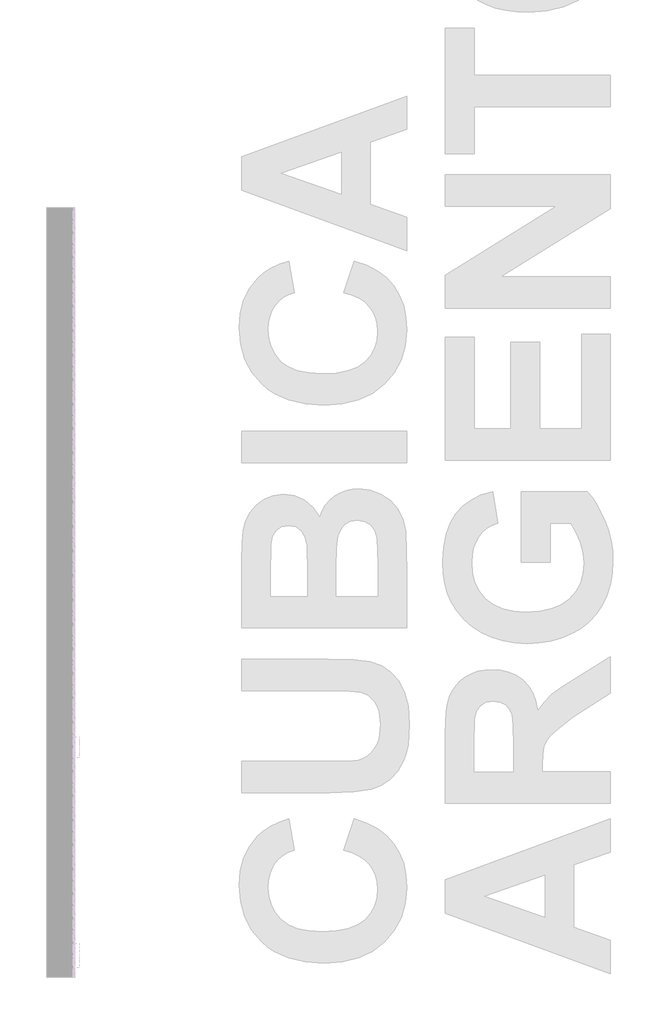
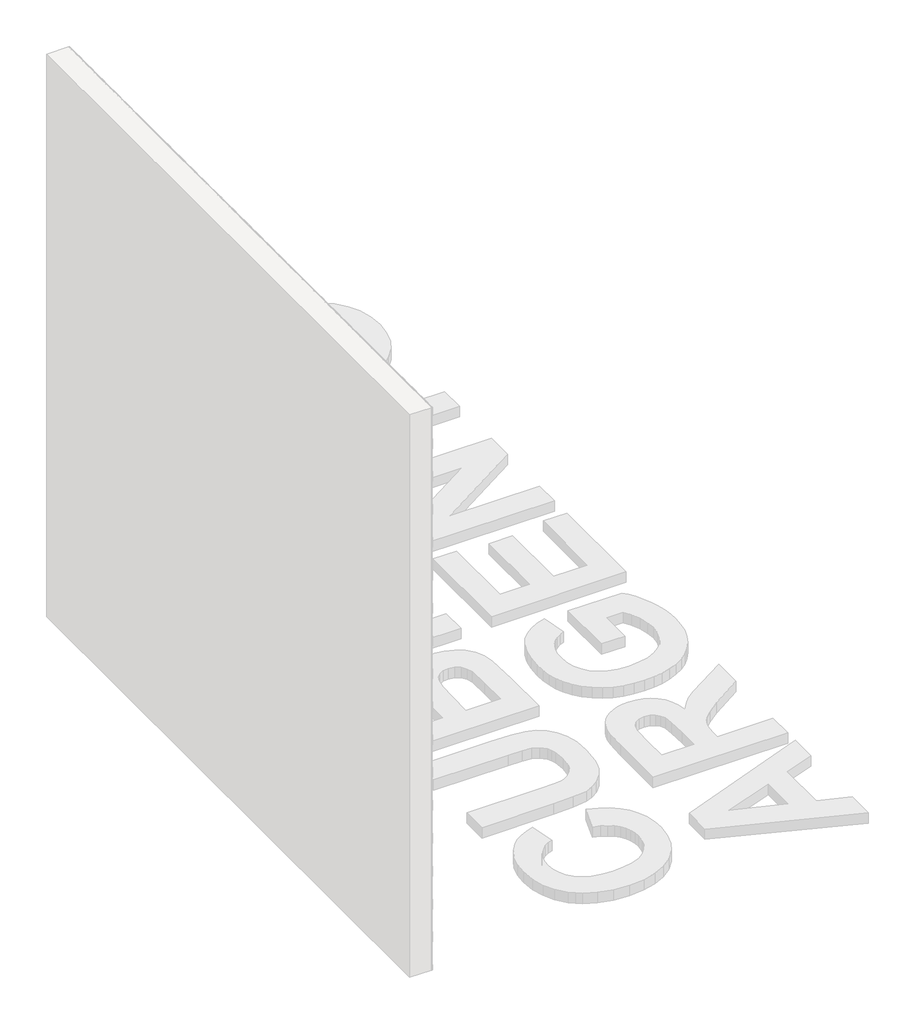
# One storey, part 7 of 121: 145 proxies.
"""IFC4 building model written with IfcOpenShell, lengths in millimetres."""

from ifc_helpers import new_model, si_unit, origin, place, context, project, spatial, transform, mapped, element, save
from components import generic_models_b2b2c5c1, generic_models_9bf73f6f, generic_models_5d175859

model = new_model("IFC4")

# Units and contexts
model_context = context("Model", 3, world=origin())
ifc_project = project(units=[si_unit("LENGTHUNIT", "METRE", prefix="MILLI")], contexts=[model_context])

# Site, building, storey
site = spatial("IfcSite", under=ifc_project)
building = spatial("IfcBuilding", under=site)
storey = spatial("IfcBuildingStorey", under=building, Name="PORTOBELLO - SHOWROOM", Elevation=0.0)

# Proxies
placement = place(None, origin())
generic_models_shape = generic_models_b2b2c5c1(model_context)
element("IfcBuildingElementProxy", 1, Name="PBSHOP - CUBICA ARGENTO 4,8X8,3 : CUBICA ARGENTO - POSIÇÃO 01", ObjectType="PBSHOP - CUBICA ARGENTO 4,8X8,3 : CUBICA ARGENTO - POSIÇÃO 01", at=placement, inside=storey, context=model_context, shape_type="MappedRepresentation", body=[
    mapped(generic_models_shape, transform((150369.5341846, -5949.2559082, 828.7685506), x_axis=(0.0, 1.0, 0.0), y_axis=(0.0, 0.0, 1.0), z_axis=(1.0, 0.0, 0.0))),
])
element("IfcBuildingElementProxy", 2, Name="PBSHOP - CUBICA ARGENTO 4,8X8,3 : CUBICA ARGENTO - POSIÇÃO 01", ObjectType="PBSHOP - CUBICA ARGENTO 4,8X8,3 : CUBICA ARGENTO - POSIÇÃO 01", at=placement, inside=storey, context=model_context, shape_type="MappedRepresentation", body=[
    mapped(generic_models_shape, transform((150369.5341846, -5858.416639, 828.7685506), x_axis=(0.0, 1.0, 0.0), y_axis=(0.0, 0.0, 1.0), z_axis=(1.0, 0.0, 0.0))),
])
element("IfcBuildingElementProxy", 3, Name="PBSHOP - CUBICA ARGENTO 4,8X8,3 : CUBICA ARGENTO - POSIÇÃO 01", ObjectType="PBSHOP - CUBICA ARGENTO 4,8X8,3 : CUBICA ARGENTO - POSIÇÃO 01", at=placement, inside=storey, context=model_context, shape_type="MappedRepresentation", body=[
    mapped(generic_models_shape, transform((150369.5341846, -5767.5773697, 828.7685506), x_axis=(0.0, 1.0, 0.0), y_axis=(0.0, 0.0, 1.0), z_axis=(1.0, 0.0, 0.0))),
])
element("IfcBuildingElementProxy", 4, Name="PBSHOP - CUBICA ARGENTO 4,8X8,3 : CUBICA ARGENTO - POSIÇÃO 01", ObjectType="PBSHOP - CUBICA ARGENTO 4,8X8,3 : CUBICA ARGENTO - POSIÇÃO 01", at=placement, inside=storey, context=model_context, shape_type="MappedRepresentation", body=[
    mapped(generic_models_shape, transform((150369.5341846, -5676.7381005, 828.7685506), x_axis=(0.0, 1.0, 0.0), y_axis=(0.0, 0.0, 1.0), z_axis=(1.0, 0.0, 0.0))),
])
element("IfcBuildingElementProxy", 5, Name="PBSHOP - CUBICA ARGENTO 4,8X8,3 : CUBICA ARGENTO - POSIÇÃO 01", ObjectType="PBSHOP - CUBICA ARGENTO 4,8X8,3 : CUBICA ARGENTO - POSIÇÃO 01", at=placement, inside=storey, context=model_context, shape_type="MappedRepresentation", body=[
    mapped(generic_models_shape, transform((150369.5341846, -5585.8988312, 828.7685506), x_axis=(0.0, 1.0, 0.0), y_axis=(0.0, 0.0, 1.0), z_axis=(1.0, 0.0, 0.0))),
])
element("IfcBuildingElementProxy", 6, Name="PBSHOP - CUBICA ARGENTO 4,8X8,3 : CUBICA ARGENTO - POSIÇÃO 01", ObjectType="PBSHOP - CUBICA ARGENTO 4,8X8,3 : CUBICA ARGENTO - POSIÇÃO 01", at=placement, inside=storey, context=model_context, shape_type="MappedRepresentation", body=[
    mapped(generic_models_shape, transform((150369.5341846, -5495.059562, 828.7685506), x_axis=(0.0, 1.0, 0.0), y_axis=(0.0, 0.0, 1.0), z_axis=(1.0, 0.0, 0.0))),
])
element("IfcBuildingElementProxy", 7, Name="PBSHOP - CUBICA ARGENTO 4,8X8,3 : CUBICA ARGENTO - POSIÇÃO 01", ObjectType="PBSHOP - CUBICA ARGENTO 4,8X8,3 : CUBICA ARGENTO - POSIÇÃO 01", at=placement, inside=storey, context=model_context, shape_type="MappedRepresentation", body=[
    mapped(generic_models_shape, transform((150369.5341846, -5404.2202927, 828.7685506), x_axis=(0.0, 1.0, 0.0), y_axis=(0.0, 0.0, 1.0), z_axis=(1.0, 0.0, 0.0))),
])
element("IfcBuildingElementProxy", 8, Name="PBSHOP - CUBICA ARGENTO 4,8X8,3 : CUBICA ARGENTO - POSIÇÃO 01", ObjectType="PBSHOP - CUBICA ARGENTO 4,8X8,3 : CUBICA ARGENTO - POSIÇÃO 01", at=placement, inside=storey, context=model_context, shape_type="MappedRepresentation", body=[
    mapped(generic_models_shape, transform((150369.5341846, -5313.3810235, 828.7685506), x_axis=(0.0, 1.0, 0.0), y_axis=(0.0, 0.0, 1.0), z_axis=(1.0, 0.0, 0.0))),
])
element("IfcBuildingElementProxy", 9, Name="PBSHOP - CUBICA ARGENTO 4,8X8,3 : CUBICA ARGENTO - POSIÇÃO 01", ObjectType="PBSHOP - CUBICA ARGENTO 4,8X8,3 : CUBICA ARGENTO - POSIÇÃO 01", at=placement, inside=storey, context=model_context, shape_type="MappedRepresentation", body=[
    mapped(generic_models_shape, transform((150369.5341846, -5222.5417543, 828.7685506), x_axis=(0.0, 1.0, 0.0), y_axis=(0.0, 0.0, 1.0), z_axis=(1.0, 0.0, 0.0))),
])
element("IfcBuildingElementProxy", 10, Name="PBSHOP - CUBICA ARGENTO 4,8X8,3 : CUBICA ARGENTO - POSIÇÃO 01", ObjectType="PBSHOP - CUBICA ARGENTO 4,8X8,3 : CUBICA ARGENTO - POSIÇÃO 01", at=placement, inside=storey, context=model_context, shape_type="MappedRepresentation", body=[
    mapped(generic_models_shape, transform((150369.5341846, -5131.702485, 828.7685506), x_axis=(0.0, 1.0, 0.0), y_axis=(0.0, 0.0, 1.0), z_axis=(1.0, 0.0, 0.0))),
])
element("IfcBuildingElementProxy", 11, Name="PBSHOP - CUBICA ARGENTO 4,8X8,3 : CUBICA ARGENTO - POSIÇÃO 01", ObjectType="PBSHOP - CUBICA ARGENTO 4,8X8,3 : CUBICA ARGENTO - POSIÇÃO 01", at=placement, inside=storey, context=model_context, shape_type="MappedRepresentation", body=[
    mapped(generic_models_shape, transform((150369.5341846, -5040.8632158, 828.7685506), x_axis=(0.0, 1.0, 0.0), y_axis=(0.0, 0.0, 1.0), z_axis=(1.0, 0.0, 0.0))),
])
element("IfcBuildingElementProxy", 12, Name="PBSHOP - CUBICA ARGENTO 4,8X8,3 : CUBICA ARGENTO - POSIÇÃO 01", ObjectType="PBSHOP - CUBICA ARGENTO 4,8X8,3 : CUBICA ARGENTO - POSIÇÃO 01", at=placement, inside=storey, context=model_context, shape_type="MappedRepresentation", body=[
    mapped(generic_models_shape, transform((150369.5341846, -5994.6755428, 907.7031889), x_axis=(0.0, 1.0, 0.0), y_axis=(0.0, 0.0, 1.0), z_axis=(1.0, 0.0, 0.0))),
])
element("IfcBuildingElementProxy", 13, Name="PBSHOP - CUBICA ARGENTO 4,8X8,3 : CUBICA ARGENTO - POSIÇÃO 01", ObjectType="PBSHOP - CUBICA ARGENTO 4,8X8,3 : CUBICA ARGENTO - POSIÇÃO 01", at=placement, inside=storey, context=model_context, shape_type="MappedRepresentation", body=[
    mapped(generic_models_shape, transform((150369.5341846, -5903.8362736, 907.7031889), x_axis=(0.0, 1.0, 0.0), y_axis=(0.0, 0.0, 1.0), z_axis=(1.0, 0.0, 0.0))),
])
element("IfcBuildingElementProxy", 14, Name="PBSHOP - CUBICA ARGENTO 4,8X8,3 : CUBICA ARGENTO - POSIÇÃO 01", ObjectType="PBSHOP - CUBICA ARGENTO 4,8X8,3 : CUBICA ARGENTO - POSIÇÃO 01", at=placement, inside=storey, context=model_context, shape_type="MappedRepresentation", body=[
    mapped(generic_models_shape, transform((150369.5341846, -5812.9970043, 907.7031889), x_axis=(0.0, 1.0, 0.0), y_axis=(0.0, 0.0, 1.0), z_axis=(1.0, 0.0, 0.0))),
])
element("IfcBuildingElementProxy", 15, Name="PBSHOP - CUBICA ARGENTO 4,8X8,3 : CUBICA ARGENTO - POSIÇÃO 01", ObjectType="PBSHOP - CUBICA ARGENTO 4,8X8,3 : CUBICA ARGENTO - POSIÇÃO 01", at=placement, inside=storey, context=model_context, shape_type="MappedRepresentation", body=[
    mapped(generic_models_shape, transform((150369.5341846, -5722.1577351, 907.7031889), x_axis=(0.0, 1.0, 0.0), y_axis=(0.0, 0.0, 1.0), z_axis=(1.0, 0.0, 0.0))),
])
element("IfcBuildingElementProxy", 16, Name="PBSHOP - CUBICA ARGENTO 4,8X8,3 : CUBICA ARGENTO - POSIÇÃO 01", ObjectType="PBSHOP - CUBICA ARGENTO 4,8X8,3 : CUBICA ARGENTO - POSIÇÃO 01", at=placement, inside=storey, context=model_context, shape_type="MappedRepresentation", body=[
    mapped(generic_models_shape, transform((150369.5341846, -5631.3184659, 907.7031889), x_axis=(0.0, 1.0, 0.0), y_axis=(0.0, 0.0, 1.0), z_axis=(1.0, 0.0, 0.0))),
])
element("IfcBuildingElementProxy", 17, Name="PBSHOP - CUBICA ARGENTO 4,8X8,3 : CUBICA ARGENTO - POSIÇÃO 01", ObjectType="PBSHOP - CUBICA ARGENTO 4,8X8,3 : CUBICA ARGENTO - POSIÇÃO 01", at=placement, inside=storey, context=model_context, shape_type="MappedRepresentation", body=[
    mapped(generic_models_shape, transform((150369.5341846, -5540.4791966, 907.7031889), x_axis=(0.0, 1.0, 0.0), y_axis=(0.0, 0.0, 1.0), z_axis=(1.0, 0.0, 0.0))),
])
element("IfcBuildingElementProxy", 18, Name="PBSHOP - CUBICA ARGENTO 4,8X8,3 : CUBICA ARGENTO - POSIÇÃO 01", ObjectType="PBSHOP - CUBICA ARGENTO 4,8X8,3 : CUBICA ARGENTO - POSIÇÃO 01", at=placement, inside=storey, context=model_context, shape_type="MappedRepresentation", body=[
    mapped(generic_models_shape, transform((150369.5341846, -5449.6399274, 907.7031889), x_axis=(0.0, 1.0, 0.0), y_axis=(0.0, 0.0, 1.0), z_axis=(1.0, 0.0, 0.0))),
])
element("IfcBuildingElementProxy", 19, Name="PBSHOP - CUBICA ARGENTO 4,8X8,3 : CUBICA ARGENTO - POSIÇÃO 01", ObjectType="PBSHOP - CUBICA ARGENTO 4,8X8,3 : CUBICA ARGENTO - POSIÇÃO 01", at=placement, inside=storey, context=model_context, shape_type="MappedRepresentation", body=[
    mapped(generic_models_shape, transform((150369.5341846, -5358.8006581, 907.7031889), x_axis=(0.0, 1.0, 0.0), y_axis=(0.0, 0.0, 1.0), z_axis=(1.0, 0.0, 0.0))),
])
element("IfcBuildingElementProxy", 20, Name="PBSHOP - CUBICA ARGENTO 4,8X8,3 : CUBICA ARGENTO - POSIÇÃO 01", ObjectType="PBSHOP - CUBICA ARGENTO 4,8X8,3 : CUBICA ARGENTO - POSIÇÃO 01", at=placement, inside=storey, context=model_context, shape_type="MappedRepresentation", body=[
    mapped(generic_models_shape, transform((150369.5341846, -5267.9613889, 907.7031889), x_axis=(0.0, 1.0, 0.0), y_axis=(0.0, 0.0, 1.0), z_axis=(1.0, 0.0, 0.0))),
])
element("IfcBuildingElementProxy", 21, Name="PBSHOP - CUBICA ARGENTO 4,8X8,3 : CUBICA ARGENTO - POSIÇÃO 01", ObjectType="PBSHOP - CUBICA ARGENTO 4,8X8,3 : CUBICA ARGENTO - POSIÇÃO 01", at=placement, inside=storey, context=model_context, shape_type="MappedRepresentation", body=[
    mapped(generic_models_shape, transform((150369.5341846, -5177.1221196, 907.7031889), x_axis=(0.0, 1.0, 0.0), y_axis=(0.0, 0.0, 1.0), z_axis=(1.0, 0.0, 0.0))),
])
element("IfcBuildingElementProxy", 22, Name="PBSHOP - CUBICA ARGENTO 4,8X8,3 : CUBICA ARGENTO - POSIÇÃO 01", ObjectType="PBSHOP - CUBICA ARGENTO 4,8X8,3 : CUBICA ARGENTO - POSIÇÃO 01", at=placement, inside=storey, context=model_context, shape_type="MappedRepresentation", body=[
    mapped(generic_models_shape, transform((150369.5341846, -5086.2828504, 907.7031889), x_axis=(0.0, 1.0, 0.0), y_axis=(0.0, 0.0, 1.0), z_axis=(1.0, 0.0, 0.0))),
])
element("IfcBuildingElementProxy", 23, Name="PBSHOP - CUBICA ARGENTO 4,8X8,3 : CUBICA ARGENTO - POSIÇÃO 01", ObjectType="PBSHOP - CUBICA ARGENTO 4,8X8,3 : CUBICA ARGENTO - POSIÇÃO 01", at=placement, inside=storey, context=model_context, shape_type="MappedRepresentation", body=[
    mapped(generic_models_shape, transform((150369.5341846, -5949.2559082, 986.6378273), x_axis=(0.0, 1.0, 0.0), y_axis=(0.0, 0.0, 1.0), z_axis=(1.0, 0.0, 0.0))),
])
element("IfcBuildingElementProxy", 24, Name="PBSHOP - CUBICA ARGENTO 4,8X8,3 : CUBICA ARGENTO - POSIÇÃO 01", ObjectType="PBSHOP - CUBICA ARGENTO 4,8X8,3 : CUBICA ARGENTO - POSIÇÃO 01", at=placement, inside=storey, context=model_context, shape_type="MappedRepresentation", body=[
    mapped(generic_models_shape, transform((150369.5341846, -5858.416639, 986.6378273), x_axis=(0.0, 1.0, 0.0), y_axis=(0.0, 0.0, 1.0), z_axis=(1.0, 0.0, 0.0))),
])
element("IfcBuildingElementProxy", 25, Name="PBSHOP - CUBICA ARGENTO 4,8X8,3 : CUBICA ARGENTO - POSIÇÃO 01", ObjectType="PBSHOP - CUBICA ARGENTO 4,8X8,3 : CUBICA ARGENTO - POSIÇÃO 01", at=placement, inside=storey, context=model_context, shape_type="MappedRepresentation", body=[
    mapped(generic_models_shape, transform((150369.5341846, -5767.5773697, 986.6378273), x_axis=(0.0, 1.0, 0.0), y_axis=(0.0, 0.0, 1.0), z_axis=(1.0, 0.0, 0.0))),
])
element("IfcBuildingElementProxy", 26, Name="PBSHOP - CUBICA ARGENTO 4,8X8,3 : CUBICA ARGENTO - POSIÇÃO 01", ObjectType="PBSHOP - CUBICA ARGENTO 4,8X8,3 : CUBICA ARGENTO - POSIÇÃO 01", at=placement, inside=storey, context=model_context, shape_type="MappedRepresentation", body=[
    mapped(generic_models_shape, transform((150369.5341846, -5676.7381005, 986.6378273), x_axis=(0.0, 1.0, 0.0), y_axis=(0.0, 0.0, 1.0), z_axis=(1.0, 0.0, 0.0))),
])
element("IfcBuildingElementProxy", 27, Name="PBSHOP - CUBICA ARGENTO 4,8X8,3 : CUBICA ARGENTO - POSIÇÃO 01", ObjectType="PBSHOP - CUBICA ARGENTO 4,8X8,3 : CUBICA ARGENTO - POSIÇÃO 01", at=placement, inside=storey, context=model_context, shape_type="MappedRepresentation", body=[
    mapped(generic_models_shape, transform((150369.5341846, -5585.8988312, 986.6378273), x_axis=(0.0, 1.0, 0.0), y_axis=(0.0, 0.0, 1.0), z_axis=(1.0, 0.0, 0.0))),
])
element("IfcBuildingElementProxy", 28, Name="PBSHOP - CUBICA ARGENTO 4,8X8,3 : CUBICA ARGENTO - POSIÇÃO 01", ObjectType="PBSHOP - CUBICA ARGENTO 4,8X8,3 : CUBICA ARGENTO - POSIÇÃO 01", at=placement, inside=storey, context=model_context, shape_type="MappedRepresentation", body=[
    mapped(generic_models_shape, transform((150369.5341846, -5495.059562, 986.6378273), x_axis=(0.0, 1.0, 0.0), y_axis=(0.0, 0.0, 1.0), z_axis=(1.0, 0.0, 0.0))),
])
element("IfcBuildingElementProxy", 29, Name="PBSHOP - CUBICA ARGENTO 4,8X8,3 : CUBICA ARGENTO - POSIÇÃO 01", ObjectType="PBSHOP - CUBICA ARGENTO 4,8X8,3 : CUBICA ARGENTO - POSIÇÃO 01", at=placement, inside=storey, context=model_context, shape_type="MappedRepresentation", body=[
    mapped(generic_models_shape, transform((150369.5341846, -5404.2202927, 986.6378273), x_axis=(0.0, 1.0, 0.0), y_axis=(0.0, 0.0, 1.0), z_axis=(1.0, 0.0, 0.0))),
])
element("IfcBuildingElementProxy", 30, Name="PBSHOP - CUBICA ARGENTO 4,8X8,3 : CUBICA ARGENTO - POSIÇÃO 01", ObjectType="PBSHOP - CUBICA ARGENTO 4,8X8,3 : CUBICA ARGENTO - POSIÇÃO 01", at=placement, inside=storey, context=model_context, shape_type="MappedRepresentation", body=[
    mapped(generic_models_shape, transform((150369.5341846, -5313.3810235, 986.6378273), x_axis=(0.0, 1.0, 0.0), y_axis=(0.0, 0.0, 1.0), z_axis=(1.0, 0.0, 0.0))),
])
element("IfcBuildingElementProxy", 31, Name="PBSHOP - CUBICA ARGENTO 4,8X8,3 : CUBICA ARGENTO - POSIÇÃO 01", ObjectType="PBSHOP - CUBICA ARGENTO 4,8X8,3 : CUBICA ARGENTO - POSIÇÃO 01", at=placement, inside=storey, context=model_context, shape_type="MappedRepresentation", body=[
    mapped(generic_models_shape, transform((150369.5341846, -5222.5417543, 986.6378273), x_axis=(0.0, 1.0, 0.0), y_axis=(0.0, 0.0, 1.0), z_axis=(1.0, 0.0, 0.0))),
])
element("IfcBuildingElementProxy", 32, Name="PBSHOP - CUBICA ARGENTO 4,8X8,3 : CUBICA ARGENTO - POSIÇÃO 01", ObjectType="PBSHOP - CUBICA ARGENTO 4,8X8,3 : CUBICA ARGENTO - POSIÇÃO 01", at=placement, inside=storey, context=model_context, shape_type="MappedRepresentation", body=[
    mapped(generic_models_shape, transform((150369.5341846, -5131.702485, 986.6378273), x_axis=(0.0, 1.0, 0.0), y_axis=(0.0, 0.0, 1.0), z_axis=(1.0, 0.0, 0.0))),
])
element("IfcBuildingElementProxy", 33, Name="PBSHOP - CUBICA ARGENTO 4,8X8,3 : CUBICA ARGENTO - POSIÇÃO 01", ObjectType="PBSHOP - CUBICA ARGENTO 4,8X8,3 : CUBICA ARGENTO - POSIÇÃO 01", at=placement, inside=storey, context=model_context, shape_type="MappedRepresentation", body=[
    mapped(generic_models_shape, transform((150369.5341846, -5040.8632158, 986.6378273), x_axis=(0.0, 1.0, 0.0), y_axis=(0.0, 0.0, 1.0), z_axis=(1.0, 0.0, 0.0))),
])
element("IfcBuildingElementProxy", 34, Name="PBSHOP - CUBICA ARGENTO 4,8X8,3 : CUBICA ARGENTO - POSIÇÃO 01", ObjectType="PBSHOP - CUBICA ARGENTO 4,8X8,3 : CUBICA ARGENTO - POSIÇÃO 01", at=placement, inside=storey, context=model_context, shape_type="MappedRepresentation", body=[
    mapped(generic_models_shape, transform((150369.5341846, -5994.6755428, 1065.5724657), x_axis=(0.0, 1.0, 0.0), y_axis=(0.0, 0.0, 1.0), z_axis=(1.0, 0.0, 0.0))),
])
element("IfcBuildingElementProxy", 35, Name="PBSHOP - CUBICA ARGENTO 4,8X8,3 : CUBICA ARGENTO - POSIÇÃO 01", ObjectType="PBSHOP - CUBICA ARGENTO 4,8X8,3 : CUBICA ARGENTO - POSIÇÃO 01", at=placement, inside=storey, context=model_context, shape_type="MappedRepresentation", body=[
    mapped(generic_models_shape, transform((150369.5341846, -5903.8362736, 1065.5724657), x_axis=(0.0, 1.0, 0.0), y_axis=(0.0, 0.0, 1.0), z_axis=(1.0, 0.0, 0.0))),
])
element("IfcBuildingElementProxy", 36, Name="PBSHOP - CUBICA ARGENTO 4,8X8,3 : CUBICA ARGENTO - POSIÇÃO 01", ObjectType="PBSHOP - CUBICA ARGENTO 4,8X8,3 : CUBICA ARGENTO - POSIÇÃO 01", at=placement, inside=storey, context=model_context, shape_type="MappedRepresentation", body=[
    mapped(generic_models_shape, transform((150369.5341846, -5812.9970043, 1065.5724657), x_axis=(0.0, 1.0, 0.0), y_axis=(0.0, 0.0, 1.0), z_axis=(1.0, 0.0, 0.0))),
])
element("IfcBuildingElementProxy", 37, Name="PBSHOP - CUBICA ARGENTO 4,8X8,3 : CUBICA ARGENTO - POSIÇÃO 01", ObjectType="PBSHOP - CUBICA ARGENTO 4,8X8,3 : CUBICA ARGENTO - POSIÇÃO 01", at=placement, inside=storey, context=model_context, shape_type="MappedRepresentation", body=[
    mapped(generic_models_shape, transform((150369.5341846, -5722.1577351, 1065.5724657), x_axis=(0.0, 1.0, 0.0), y_axis=(0.0, 0.0, 1.0), z_axis=(1.0, 0.0, 0.0))),
])
element("IfcBuildingElementProxy", 38, Name="PBSHOP - CUBICA ARGENTO 4,8X8,3 : CUBICA ARGENTO - POSIÇÃO 01", ObjectType="PBSHOP - CUBICA ARGENTO 4,8X8,3 : CUBICA ARGENTO - POSIÇÃO 01", at=placement, inside=storey, context=model_context, shape_type="MappedRepresentation", body=[
    mapped(generic_models_shape, transform((150369.5341846, -5631.3184659, 1065.5724657), x_axis=(0.0, 1.0, 0.0), y_axis=(0.0, 0.0, 1.0), z_axis=(1.0, 0.0, 0.0))),
])
element("IfcBuildingElementProxy", 39, Name="PBSHOP - CUBICA ARGENTO 4,8X8,3 : CUBICA ARGENTO - POSIÇÃO 01", ObjectType="PBSHOP - CUBICA ARGENTO 4,8X8,3 : CUBICA ARGENTO - POSIÇÃO 01", at=placement, inside=storey, context=model_context, shape_type="MappedRepresentation", body=[
    mapped(generic_models_shape, transform((150369.5341846, -5540.4791966, 1065.5724657), x_axis=(0.0, 1.0, 0.0), y_axis=(0.0, 0.0, 1.0), z_axis=(1.0, 0.0, 0.0))),
])
element("IfcBuildingElementProxy", 40, Name="PBSHOP - CUBICA ARGENTO 4,8X8,3 : CUBICA ARGENTO - POSIÇÃO 01", ObjectType="PBSHOP - CUBICA ARGENTO 4,8X8,3 : CUBICA ARGENTO - POSIÇÃO 01", at=placement, inside=storey, context=model_context, shape_type="MappedRepresentation", body=[
    mapped(generic_models_shape, transform((150369.5341846, -5449.6399274, 1065.5724657), x_axis=(0.0, 1.0, 0.0), y_axis=(0.0, 0.0, 1.0), z_axis=(1.0, 0.0, 0.0))),
])
element("IfcBuildingElementProxy", 41, Name="PBSHOP - CUBICA ARGENTO 4,8X8,3 : CUBICA ARGENTO - POSIÇÃO 01", ObjectType="PBSHOP - CUBICA ARGENTO 4,8X8,3 : CUBICA ARGENTO - POSIÇÃO 01", at=placement, inside=storey, context=model_context, shape_type="MappedRepresentation", body=[
    mapped(generic_models_shape, transform((150369.5341846, -5358.8006581, 1065.5724657), x_axis=(0.0, 1.0, 0.0), y_axis=(0.0, 0.0, 1.0), z_axis=(1.0, 0.0, 0.0))),
])
element("IfcBuildingElementProxy", 42, Name="PBSHOP - CUBICA ARGENTO 4,8X8,3 : CUBICA ARGENTO - POSIÇÃO 01", ObjectType="PBSHOP - CUBICA ARGENTO 4,8X8,3 : CUBICA ARGENTO - POSIÇÃO 01", at=placement, inside=storey, context=model_context, shape_type="MappedRepresentation", body=[
    mapped(generic_models_shape, transform((150369.5341846, -5267.9613889, 1065.5724657), x_axis=(0.0, 1.0, 0.0), y_axis=(0.0, 0.0, 1.0), z_axis=(1.0, 0.0, 0.0))),
])
element("IfcBuildingElementProxy", 43, Name="PBSHOP - CUBICA ARGENTO 4,8X8,3 : CUBICA ARGENTO - POSIÇÃO 01", ObjectType="PBSHOP - CUBICA ARGENTO 4,8X8,3 : CUBICA ARGENTO - POSIÇÃO 01", at=placement, inside=storey, context=model_context, shape_type="MappedRepresentation", body=[
    mapped(generic_models_shape, transform((150369.5341846, -5177.1221196, 1065.5724657), x_axis=(0.0, 1.0, 0.0), y_axis=(0.0, 0.0, 1.0), z_axis=(1.0, 0.0, 0.0))),
])
element("IfcBuildingElementProxy", 44, Name="PBSHOP - CUBICA ARGENTO 4,8X8,3 : CUBICA ARGENTO - POSIÇÃO 01", ObjectType="PBSHOP - CUBICA ARGENTO 4,8X8,3 : CUBICA ARGENTO - POSIÇÃO 01", at=placement, inside=storey, context=model_context, shape_type="MappedRepresentation", body=[
    mapped(generic_models_shape, transform((150369.5341846, -5086.2828504, 1065.5724657), x_axis=(0.0, 1.0, 0.0), y_axis=(0.0, 0.0, 1.0), z_axis=(1.0, 0.0, 0.0))),
])
element("IfcBuildingElementProxy", 45, Name="PBSHOP - CUBICA ARGENTO 4,8X8,3 : CUBICA ARGENTO - POSIÇÃO 01", ObjectType="PBSHOP - CUBICA ARGENTO 4,8X8,3 : CUBICA ARGENTO - POSIÇÃO 01", at=placement, inside=storey, context=model_context, shape_type="MappedRepresentation", body=[
    mapped(generic_models_shape, transform((150369.5341846, -5949.2559082, 1144.507104), x_axis=(0.0, 1.0, 0.0), y_axis=(0.0, 0.0, 1.0), z_axis=(1.0, 0.0, 0.0))),
])
generic_models_2_shape = generic_models_9bf73f6f(model_context)
element("IfcBuildingElementProxy", 46, Name="PBSHOP - CUBICA ARGENTO 4,8X8,3 : CUBICA ARGENTO - POSIÇÃO 03", ObjectType="PBSHOP - CUBICA ARGENTO 4,8X8,3 : CUBICA ARGENTO - POSIÇÃO 03", at=placement, inside=storey, context=model_context, shape_type="MappedRepresentation", body=[
    mapped(generic_models_2_shape, transform((150369.5341846, -5926.5439317, 710.3253826), x_axis=(0.0, 1.0, 0.0), y_axis=(0.0, 0.0, 1.0), z_axis=(1.0, 0.0, 0.0))),
])
element("IfcBuildingElementProxy", 47, Name="PBSHOP - CUBICA ARGENTO 4,8X8,3 : CUBICA ARGENTO - POSIÇÃO 03", ObjectType="PBSHOP - CUBICA ARGENTO 4,8X8,3 : CUBICA ARGENTO - POSIÇÃO 03", at=placement, inside=storey, context=model_context, shape_type="MappedRepresentation", body=[
    mapped(generic_models_2_shape, transform((150369.5341846, -5835.7046625, 710.3253826), x_axis=(0.0, 1.0, 0.0), y_axis=(0.0, 0.0, 1.0), z_axis=(1.0, 0.0, 0.0))),
])
element("IfcBuildingElementProxy", 48, Name="PBSHOP - CUBICA ARGENTO 4,8X8,3 : CUBICA ARGENTO - POSIÇÃO 03", ObjectType="PBSHOP - CUBICA ARGENTO 4,8X8,3 : CUBICA ARGENTO - POSIÇÃO 03", at=placement, inside=storey, context=model_context, shape_type="MappedRepresentation", body=[
    mapped(generic_models_2_shape, transform((150369.5341846, -5744.8653932, 710.3253826), x_axis=(0.0, 1.0, 0.0), y_axis=(0.0, 0.0, 1.0), z_axis=(1.0, 0.0, 0.0))),
])
element("IfcBuildingElementProxy", 49, Name="PBSHOP - CUBICA ARGENTO 4,8X8,3 : CUBICA ARGENTO - POSIÇÃO 03", ObjectType="PBSHOP - CUBICA ARGENTO 4,8X8,3 : CUBICA ARGENTO - POSIÇÃO 03", at=placement, inside=storey, context=model_context, shape_type="MappedRepresentation", body=[
    mapped(generic_models_2_shape, transform((150369.5341846, -5654.026124, 710.3253826), x_axis=(0.0, 1.0, 0.0), y_axis=(0.0, 0.0, 1.0), z_axis=(1.0, 0.0, 0.0))),
])
element("IfcBuildingElementProxy", 50, Name="PBSHOP - CUBICA ARGENTO 4,8X8,3 : CUBICA ARGENTO - POSIÇÃO 03", ObjectType="PBSHOP - CUBICA ARGENTO 4,8X8,3 : CUBICA ARGENTO - POSIÇÃO 03", at=placement, inside=storey, context=model_context, shape_type="MappedRepresentation", body=[
    mapped(generic_models_2_shape, transform((150369.5341846, -5563.1868548, 710.3253826), x_axis=(0.0, 1.0, 0.0), y_axis=(0.0, 0.0, 1.0), z_axis=(1.0, 0.0, 0.0))),
])
element("IfcBuildingElementProxy", 51, Name="PBSHOP - CUBICA ARGENTO 4,8X8,3 : CUBICA ARGENTO - POSIÇÃO 03", ObjectType="PBSHOP - CUBICA ARGENTO 4,8X8,3 : CUBICA ARGENTO - POSIÇÃO 03", at=placement, inside=storey, context=model_context, shape_type="MappedRepresentation", body=[
    mapped(generic_models_2_shape, transform((150369.5341846, -5472.3475855, 710.3253826), x_axis=(0.0, 1.0, 0.0), y_axis=(0.0, 0.0, 1.0), z_axis=(1.0, 0.0, 0.0))),
])
element("IfcBuildingElementProxy", 52, Name="PBSHOP - CUBICA ARGENTO 4,8X8,3 : CUBICA ARGENTO - POSIÇÃO 03", ObjectType="PBSHOP - CUBICA ARGENTO 4,8X8,3 : CUBICA ARGENTO - POSIÇÃO 03", at=placement, inside=storey, context=model_context, shape_type="MappedRepresentation", body=[
    mapped(generic_models_2_shape, transform((150369.5341846, -5381.5083163, 710.3253826), x_axis=(0.0, 1.0, 0.0), y_axis=(0.0, 0.0, 1.0), z_axis=(1.0, 0.0, 0.0))),
])
element("IfcBuildingElementProxy", 53, Name="PBSHOP - CUBICA ARGENTO 4,8X8,3 : CUBICA ARGENTO - POSIÇÃO 03", ObjectType="PBSHOP - CUBICA ARGENTO 4,8X8,3 : CUBICA ARGENTO - POSIÇÃO 03", at=placement, inside=storey, context=model_context, shape_type="MappedRepresentation", body=[
    mapped(generic_models_2_shape, transform((150369.5341846, -5290.669047, 710.3253826), x_axis=(0.0, 1.0, 0.0), y_axis=(0.0, 0.0, 1.0), z_axis=(1.0, 0.0, 0.0))),
])
element("IfcBuildingElementProxy", 54, Name="PBSHOP - CUBICA ARGENTO 4,8X8,3 : CUBICA ARGENTO - POSIÇÃO 03", ObjectType="PBSHOP - CUBICA ARGENTO 4,8X8,3 : CUBICA ARGENTO - POSIÇÃO 03", at=placement, inside=storey, context=model_context, shape_type="MappedRepresentation", body=[
    mapped(generic_models_2_shape, transform((150369.5341846, -5199.8297778, 710.3253826), x_axis=(0.0, 1.0, 0.0), y_axis=(0.0, 0.0, 1.0), z_axis=(1.0, 0.0, 0.0))),
])
element("IfcBuildingElementProxy", 55, Name="PBSHOP - CUBICA ARGENTO 4,8X8,3 : CUBICA ARGENTO - POSIÇÃO 03", ObjectType="PBSHOP - CUBICA ARGENTO 4,8X8,3 : CUBICA ARGENTO - POSIÇÃO 03", at=placement, inside=storey, context=model_context, shape_type="MappedRepresentation", body=[
    mapped(generic_models_2_shape, transform((150369.5341846, -5108.9905085, 710.3253826), x_axis=(0.0, 1.0, 0.0), y_axis=(0.0, 0.0, 1.0), z_axis=(1.0, 0.0, 0.0))),
])
element("IfcBuildingElementProxy", 56, Name="PBSHOP - CUBICA ARGENTO 4,8X8,3 : CUBICA ARGENTO - POSIÇÃO 03", ObjectType="PBSHOP - CUBICA ARGENTO 4,8X8,3 : CUBICA ARGENTO - POSIÇÃO 03", at=placement, inside=storey, context=model_context, shape_type="MappedRepresentation", body=[
    mapped(generic_models_2_shape, transform((150369.5341846, -5018.1512393, 710.3253826), x_axis=(0.0, 1.0, 0.0), y_axis=(0.0, 0.0, 1.0), z_axis=(1.0, 0.0, 0.0))),
])
element("IfcBuildingElementProxy", 57, Name="PBSHOP - CUBICA ARGENTO 4,8X8,3 : CUBICA ARGENTO - POSIÇÃO 03", ObjectType="PBSHOP - CUBICA ARGENTO 4,8X8,3 : CUBICA ARGENTO - POSIÇÃO 03", at=placement, inside=storey, context=model_context, shape_type="MappedRepresentation", body=[
    mapped(generic_models_2_shape, transform((150369.5341846, -5971.9635664, 789.2600209), x_axis=(0.0, 1.0, 0.0), y_axis=(0.0, 0.0, 1.0), z_axis=(1.0, 0.0, 0.0))),
])
element("IfcBuildingElementProxy", 58, Name="PBSHOP - CUBICA ARGENTO 4,8X8,3 : CUBICA ARGENTO - POSIÇÃO 03", ObjectType="PBSHOP - CUBICA ARGENTO 4,8X8,3 : CUBICA ARGENTO - POSIÇÃO 03", at=placement, inside=storey, context=model_context, shape_type="MappedRepresentation", body=[
    mapped(generic_models_2_shape, transform((150369.5341846, -5881.1242971, 789.2600209), x_axis=(0.0, 1.0, 0.0), y_axis=(0.0, 0.0, 1.0), z_axis=(1.0, 0.0, 0.0))),
])
element("IfcBuildingElementProxy", 59, Name="PBSHOP - CUBICA ARGENTO 4,8X8,3 : CUBICA ARGENTO - POSIÇÃO 03", ObjectType="PBSHOP - CUBICA ARGENTO 4,8X8,3 : CUBICA ARGENTO - POSIÇÃO 03", at=placement, inside=storey, context=model_context, shape_type="MappedRepresentation", body=[
    mapped(generic_models_2_shape, transform((150369.5341846, -5790.2850279, 789.2600209), x_axis=(0.0, 1.0, 0.0), y_axis=(0.0, 0.0, 1.0), z_axis=(1.0, 0.0, 0.0))),
])
element("IfcBuildingElementProxy", 60, Name="PBSHOP - CUBICA ARGENTO 4,8X8,3 : CUBICA ARGENTO - POSIÇÃO 03", ObjectType="PBSHOP - CUBICA ARGENTO 4,8X8,3 : CUBICA ARGENTO - POSIÇÃO 03", at=placement, inside=storey, context=model_context, shape_type="MappedRepresentation", body=[
    mapped(generic_models_2_shape, transform((150369.5341846, -5699.4457586, 789.2600209), x_axis=(0.0, 1.0, 0.0), y_axis=(0.0, 0.0, 1.0), z_axis=(1.0, 0.0, 0.0))),
])
element("IfcBuildingElementProxy", 61, Name="PBSHOP - CUBICA ARGENTO 4,8X8,3 : CUBICA ARGENTO - POSIÇÃO 03", ObjectType="PBSHOP - CUBICA ARGENTO 4,8X8,3 : CUBICA ARGENTO - POSIÇÃO 03", at=placement, inside=storey, context=model_context, shape_type="MappedRepresentation", body=[
    mapped(generic_models_2_shape, transform((150369.5341846, -5608.6064894, 789.2600209), x_axis=(0.0, 1.0, 0.0), y_axis=(0.0, 0.0, 1.0), z_axis=(1.0, 0.0, 0.0))),
])
element("IfcBuildingElementProxy", 62, Name="PBSHOP - CUBICA ARGENTO 4,8X8,3 : CUBICA ARGENTO - POSIÇÃO 03", ObjectType="PBSHOP - CUBICA ARGENTO 4,8X8,3 : CUBICA ARGENTO - POSIÇÃO 03", at=placement, inside=storey, context=model_context, shape_type="MappedRepresentation", body=[
    mapped(generic_models_2_shape, transform((150369.5341846, -5517.7672201, 789.2600209), x_axis=(0.0, 1.0, 0.0), y_axis=(0.0, 0.0, 1.0), z_axis=(1.0, 0.0, 0.0))),
])
element("IfcBuildingElementProxy", 63, Name="PBSHOP - CUBICA ARGENTO 4,8X8,3 : CUBICA ARGENTO - POSIÇÃO 03", ObjectType="PBSHOP - CUBICA ARGENTO 4,8X8,3 : CUBICA ARGENTO - POSIÇÃO 03", at=placement, inside=storey, context=model_context, shape_type="MappedRepresentation", body=[
    mapped(generic_models_2_shape, transform((150369.5341846, -5426.9279509, 789.2600209), x_axis=(0.0, 1.0, 0.0), y_axis=(0.0, 0.0, 1.0), z_axis=(1.0, 0.0, 0.0))),
])
element("IfcBuildingElementProxy", 64, Name="PBSHOP - CUBICA ARGENTO 4,8X8,3 : CUBICA ARGENTO - POSIÇÃO 03", ObjectType="PBSHOP - CUBICA ARGENTO 4,8X8,3 : CUBICA ARGENTO - POSIÇÃO 03", at=placement, inside=storey, context=model_context, shape_type="MappedRepresentation", body=[
    mapped(generic_models_2_shape, transform((150369.5341846, -5336.0886816, 789.2600209), x_axis=(0.0, 1.0, 0.0), y_axis=(0.0, 0.0, 1.0), z_axis=(1.0, 0.0, 0.0))),
])
element("IfcBuildingElementProxy", 65, Name="PBSHOP - CUBICA ARGENTO 4,8X8,3 : CUBICA ARGENTO - POSIÇÃO 03", ObjectType="PBSHOP - CUBICA ARGENTO 4,8X8,3 : CUBICA ARGENTO - POSIÇÃO 03", at=placement, inside=storey, context=model_context, shape_type="MappedRepresentation", body=[
    mapped(generic_models_2_shape, transform((150369.5341846, -5245.2494124, 789.2600209), x_axis=(0.0, 1.0, 0.0), y_axis=(0.0, 0.0, 1.0), z_axis=(1.0, 0.0, 0.0))),
])
element("IfcBuildingElementProxy", 66, Name="PBSHOP - CUBICA ARGENTO 4,8X8,3 : CUBICA ARGENTO - POSIÇÃO 03", ObjectType="PBSHOP - CUBICA ARGENTO 4,8X8,3 : CUBICA ARGENTO - POSIÇÃO 03", at=placement, inside=storey, context=model_context, shape_type="MappedRepresentation", body=[
    mapped(generic_models_2_shape, transform((150369.5341846, -5154.4101432, 789.2600209), x_axis=(0.0, 1.0, 0.0), y_axis=(0.0, 0.0, 1.0), z_axis=(1.0, 0.0, 0.0))),
])
element("IfcBuildingElementProxy", 67, Name="PBSHOP - CUBICA ARGENTO 4,8X8,3 : CUBICA ARGENTO - POSIÇÃO 03", ObjectType="PBSHOP - CUBICA ARGENTO 4,8X8,3 : CUBICA ARGENTO - POSIÇÃO 03", at=placement, inside=storey, context=model_context, shape_type="MappedRepresentation", body=[
    mapped(generic_models_2_shape, transform((150369.5341846, -5063.5708739, 789.2600209), x_axis=(0.0, 1.0, 0.0), y_axis=(0.0, 0.0, 1.0), z_axis=(1.0, 0.0, 0.0))),
])
element("IfcBuildingElementProxy", 68, Name="PBSHOP - CUBICA ARGENTO 4,8X8,3 : CUBICA ARGENTO - POSIÇÃO 03", ObjectType="PBSHOP - CUBICA ARGENTO 4,8X8,3 : CUBICA ARGENTO - POSIÇÃO 03", at=placement, inside=storey, context=model_context, shape_type="MappedRepresentation", body=[
    mapped(generic_models_2_shape, transform((150369.5341846, -5926.5439317, 868.1946593), x_axis=(0.0, 1.0, 0.0), y_axis=(0.0, 0.0, 1.0), z_axis=(1.0, 0.0, 0.0))),
])
element("IfcBuildingElementProxy", 69, Name="PBSHOP - CUBICA ARGENTO 4,8X8,3 : CUBICA ARGENTO - POSIÇÃO 03", ObjectType="PBSHOP - CUBICA ARGENTO 4,8X8,3 : CUBICA ARGENTO - POSIÇÃO 03", at=placement, inside=storey, context=model_context, shape_type="MappedRepresentation", body=[
    mapped(generic_models_2_shape, transform((150369.5341846, -5835.7046625, 868.1946593), x_axis=(0.0, 1.0, 0.0), y_axis=(0.0, 0.0, 1.0), z_axis=(1.0, 0.0, 0.0))),
])
element("IfcBuildingElementProxy", 70, Name="PBSHOP - CUBICA ARGENTO 4,8X8,3 : CUBICA ARGENTO - POSIÇÃO 03", ObjectType="PBSHOP - CUBICA ARGENTO 4,8X8,3 : CUBICA ARGENTO - POSIÇÃO 03", at=placement, inside=storey, context=model_context, shape_type="MappedRepresentation", body=[
    mapped(generic_models_2_shape, transform((150369.5341846, -5744.8653932, 868.1946593), x_axis=(0.0, 1.0, 0.0), y_axis=(0.0, 0.0, 1.0), z_axis=(1.0, 0.0, 0.0))),
])
element("IfcBuildingElementProxy", 71, Name="PBSHOP - CUBICA ARGENTO 4,8X8,3 : CUBICA ARGENTO - POSIÇÃO 03", ObjectType="PBSHOP - CUBICA ARGENTO 4,8X8,3 : CUBICA ARGENTO - POSIÇÃO 03", at=placement, inside=storey, context=model_context, shape_type="MappedRepresentation", body=[
    mapped(generic_models_2_shape, transform((150369.5341846, -5654.026124, 868.1946593), x_axis=(0.0, 1.0, 0.0), y_axis=(0.0, 0.0, 1.0), z_axis=(1.0, 0.0, 0.0))),
])
element("IfcBuildingElementProxy", 72, Name="PBSHOP - CUBICA ARGENTO 4,8X8,3 : CUBICA ARGENTO - POSIÇÃO 03", ObjectType="PBSHOP - CUBICA ARGENTO 4,8X8,3 : CUBICA ARGENTO - POSIÇÃO 03", at=placement, inside=storey, context=model_context, shape_type="MappedRepresentation", body=[
    mapped(generic_models_2_shape, transform((150369.5341846, -5563.1868548, 868.1946593), x_axis=(0.0, 1.0, 0.0), y_axis=(0.0, 0.0, 1.0), z_axis=(1.0, 0.0, 0.0))),
])
element("IfcBuildingElementProxy", 73, Name="PBSHOP - CUBICA ARGENTO 4,8X8,3 : CUBICA ARGENTO - POSIÇÃO 03", ObjectType="PBSHOP - CUBICA ARGENTO 4,8X8,3 : CUBICA ARGENTO - POSIÇÃO 03", at=placement, inside=storey, context=model_context, shape_type="MappedRepresentation", body=[
    mapped(generic_models_2_shape, transform((150369.5341846, -5472.3475855, 868.1946593), x_axis=(0.0, 1.0, 0.0), y_axis=(0.0, 0.0, 1.0), z_axis=(1.0, 0.0, 0.0))),
])
element("IfcBuildingElementProxy", 74, Name="PBSHOP - CUBICA ARGENTO 4,8X8,3 : CUBICA ARGENTO - POSIÇÃO 03", ObjectType="PBSHOP - CUBICA ARGENTO 4,8X8,3 : CUBICA ARGENTO - POSIÇÃO 03", at=placement, inside=storey, context=model_context, shape_type="MappedRepresentation", body=[
    mapped(generic_models_2_shape, transform((150369.5341846, -5381.5083163, 868.1946593), x_axis=(0.0, 1.0, 0.0), y_axis=(0.0, 0.0, 1.0), z_axis=(1.0, 0.0, 0.0))),
])
element("IfcBuildingElementProxy", 75, Name="PBSHOP - CUBICA ARGENTO 4,8X8,3 : CUBICA ARGENTO - POSIÇÃO 03", ObjectType="PBSHOP - CUBICA ARGENTO 4,8X8,3 : CUBICA ARGENTO - POSIÇÃO 03", at=placement, inside=storey, context=model_context, shape_type="MappedRepresentation", body=[
    mapped(generic_models_2_shape, transform((150369.5341846, -5290.669047, 868.1946593), x_axis=(0.0, 1.0, 0.0), y_axis=(0.0, 0.0, 1.0), z_axis=(1.0, 0.0, 0.0))),
])
element("IfcBuildingElementProxy", 76, Name="PBSHOP - CUBICA ARGENTO 4,8X8,3 : CUBICA ARGENTO - POSIÇÃO 03", ObjectType="PBSHOP - CUBICA ARGENTO 4,8X8,3 : CUBICA ARGENTO - POSIÇÃO 03", at=placement, inside=storey, context=model_context, shape_type="MappedRepresentation", body=[
    mapped(generic_models_2_shape, transform((150369.5341846, -5199.8297778, 868.1946593), x_axis=(0.0, 1.0, 0.0), y_axis=(0.0, 0.0, 1.0), z_axis=(1.0, 0.0, 0.0))),
])
element("IfcBuildingElementProxy", 77, Name="PBSHOP - CUBICA ARGENTO 4,8X8,3 : CUBICA ARGENTO - POSIÇÃO 03", ObjectType="PBSHOP - CUBICA ARGENTO 4,8X8,3 : CUBICA ARGENTO - POSIÇÃO 03", at=placement, inside=storey, context=model_context, shape_type="MappedRepresentation", body=[
    mapped(generic_models_2_shape, transform((150369.5341846, -5108.9905085, 868.1946593), x_axis=(0.0, 1.0, 0.0), y_axis=(0.0, 0.0, 1.0), z_axis=(1.0, 0.0, 0.0))),
])
element("IfcBuildingElementProxy", 78, Name="PBSHOP - CUBICA ARGENTO 4,8X8,3 : CUBICA ARGENTO - POSIÇÃO 03", ObjectType="PBSHOP - CUBICA ARGENTO 4,8X8,3 : CUBICA ARGENTO - POSIÇÃO 03", at=placement, inside=storey, context=model_context, shape_type="MappedRepresentation", body=[
    mapped(generic_models_2_shape, transform((150369.5341846, -5018.1512393, 868.1946593), x_axis=(0.0, 1.0, 0.0), y_axis=(0.0, 0.0, 1.0), z_axis=(1.0, 0.0, 0.0))),
])
element("IfcBuildingElementProxy", 79, Name="PBSHOP - CUBICA ARGENTO 4,8X8,3 : CUBICA ARGENTO - POSIÇÃO 03", ObjectType="PBSHOP - CUBICA ARGENTO 4,8X8,3 : CUBICA ARGENTO - POSIÇÃO 03", at=placement, inside=storey, context=model_context, shape_type="MappedRepresentation", body=[
    mapped(generic_models_2_shape, transform((150369.5341846, -5971.9635664, 947.1292977), x_axis=(0.0, 1.0, 0.0), y_axis=(0.0, 0.0, 1.0), z_axis=(1.0, 0.0, 0.0))),
])
element("IfcBuildingElementProxy", 80, Name="PBSHOP - CUBICA ARGENTO 4,8X8,3 : CUBICA ARGENTO - POSIÇÃO 03", ObjectType="PBSHOP - CUBICA ARGENTO 4,8X8,3 : CUBICA ARGENTO - POSIÇÃO 03", at=placement, inside=storey, context=model_context, shape_type="MappedRepresentation", body=[
    mapped(generic_models_2_shape, transform((150369.5341846, -5881.1242971, 947.1292977), x_axis=(0.0, 1.0, 0.0), y_axis=(0.0, 0.0, 1.0), z_axis=(1.0, 0.0, 0.0))),
])
element("IfcBuildingElementProxy", 81, Name="PBSHOP - CUBICA ARGENTO 4,8X8,3 : CUBICA ARGENTO - POSIÇÃO 03", ObjectType="PBSHOP - CUBICA ARGENTO 4,8X8,3 : CUBICA ARGENTO - POSIÇÃO 03", at=placement, inside=storey, context=model_context, shape_type="MappedRepresentation", body=[
    mapped(generic_models_2_shape, transform((150369.5341846, -5790.2850279, 947.1292977), x_axis=(0.0, 1.0, 0.0), y_axis=(0.0, 0.0, 1.0), z_axis=(1.0, 0.0, 0.0))),
])
element("IfcBuildingElementProxy", 82, Name="PBSHOP - CUBICA ARGENTO 4,8X8,3 : CUBICA ARGENTO - POSIÇÃO 03", ObjectType="PBSHOP - CUBICA ARGENTO 4,8X8,3 : CUBICA ARGENTO - POSIÇÃO 03", at=placement, inside=storey, context=model_context, shape_type="MappedRepresentation", body=[
    mapped(generic_models_2_shape, transform((150369.5341846, -5699.4457586, 947.1292977), x_axis=(0.0, 1.0, 0.0), y_axis=(0.0, 0.0, 1.0), z_axis=(1.0, 0.0, 0.0))),
])
element("IfcBuildingElementProxy", 83, Name="PBSHOP - CUBICA ARGENTO 4,8X8,3 : CUBICA ARGENTO - POSIÇÃO 03", ObjectType="PBSHOP - CUBICA ARGENTO 4,8X8,3 : CUBICA ARGENTO - POSIÇÃO 03", at=placement, inside=storey, context=model_context, shape_type="MappedRepresentation", body=[
    mapped(generic_models_2_shape, transform((150369.5341846, -5608.6064894, 947.1292977), x_axis=(0.0, 1.0, 0.0), y_axis=(0.0, 0.0, 1.0), z_axis=(1.0, 0.0, 0.0))),
])
element("IfcBuildingElementProxy", 84, Name="PBSHOP - CUBICA ARGENTO 4,8X8,3 : CUBICA ARGENTO - POSIÇÃO 03", ObjectType="PBSHOP - CUBICA ARGENTO 4,8X8,3 : CUBICA ARGENTO - POSIÇÃO 03", at=placement, inside=storey, context=model_context, shape_type="MappedRepresentation", body=[
    mapped(generic_models_2_shape, transform((150369.5341846, -5517.7672201, 947.1292977), x_axis=(0.0, 1.0, 0.0), y_axis=(0.0, 0.0, 1.0), z_axis=(1.0, 0.0, 0.0))),
])
element("IfcBuildingElementProxy", 85, Name="PBSHOP - CUBICA ARGENTO 4,8X8,3 : CUBICA ARGENTO - POSIÇÃO 03", ObjectType="PBSHOP - CUBICA ARGENTO 4,8X8,3 : CUBICA ARGENTO - POSIÇÃO 03", at=placement, inside=storey, context=model_context, shape_type="MappedRepresentation", body=[
    mapped(generic_models_2_shape, transform((150369.5341846, -5426.9279509, 947.1292977), x_axis=(0.0, 1.0, 0.0), y_axis=(0.0, 0.0, 1.0), z_axis=(1.0, 0.0, 0.0))),
])
element("IfcBuildingElementProxy", 86, Name="PBSHOP - CUBICA ARGENTO 4,8X8,3 : CUBICA ARGENTO - POSIÇÃO 03", ObjectType="PBSHOP - CUBICA ARGENTO 4,8X8,3 : CUBICA ARGENTO - POSIÇÃO 03", at=placement, inside=storey, context=model_context, shape_type="MappedRepresentation", body=[
    mapped(generic_models_2_shape, transform((150369.5341846, -5336.0886816, 947.1292977), x_axis=(0.0, 1.0, 0.0), y_axis=(0.0, 0.0, 1.0), z_axis=(1.0, 0.0, 0.0))),
])
element("IfcBuildingElementProxy", 87, Name="PBSHOP - CUBICA ARGENTO 4,8X8,3 : CUBICA ARGENTO - POSIÇÃO 03", ObjectType="PBSHOP - CUBICA ARGENTO 4,8X8,3 : CUBICA ARGENTO - POSIÇÃO 03", at=placement, inside=storey, context=model_context, shape_type="MappedRepresentation", body=[
    mapped(generic_models_2_shape, transform((150369.5341846, -5245.2494124, 947.1292977), x_axis=(0.0, 1.0, 0.0), y_axis=(0.0, 0.0, 1.0), z_axis=(1.0, 0.0, 0.0))),
])
element("IfcBuildingElementProxy", 88, Name="PBSHOP - CUBICA ARGENTO 4,8X8,3 : CUBICA ARGENTO - POSIÇÃO 03", ObjectType="PBSHOP - CUBICA ARGENTO 4,8X8,3 : CUBICA ARGENTO - POSIÇÃO 03", at=placement, inside=storey, context=model_context, shape_type="MappedRepresentation", body=[
    mapped(generic_models_2_shape, transform((150369.5341846, -5154.4101432, 947.1292977), x_axis=(0.0, 1.0, 0.0), y_axis=(0.0, 0.0, 1.0), z_axis=(1.0, 0.0, 0.0))),
])
element("IfcBuildingElementProxy", 89, Name="PBSHOP - CUBICA ARGENTO 4,8X8,3 : CUBICA ARGENTO - POSIÇÃO 03", ObjectType="PBSHOP - CUBICA ARGENTO 4,8X8,3 : CUBICA ARGENTO - POSIÇÃO 03", at=placement, inside=storey, context=model_context, shape_type="MappedRepresentation", body=[
    mapped(generic_models_2_shape, transform((150369.5341846, -5063.5708739, 947.1292977), x_axis=(0.0, 1.0, 0.0), y_axis=(0.0, 0.0, 1.0), z_axis=(1.0, 0.0, 0.0))),
])
element("IfcBuildingElementProxy", 90, Name="PBSHOP - CUBICA ARGENTO 4,8X8,3 : CUBICA ARGENTO - POSIÇÃO 03", ObjectType="PBSHOP - CUBICA ARGENTO 4,8X8,3 : CUBICA ARGENTO - POSIÇÃO 03", at=placement, inside=storey, context=model_context, shape_type="MappedRepresentation", body=[
    mapped(generic_models_2_shape, transform((150369.5341846, -5926.5439317, 1026.0639361), x_axis=(0.0, 1.0, 0.0), y_axis=(0.0, 0.0, 1.0), z_axis=(1.0, 0.0, 0.0))),
])
element("IfcBuildingElementProxy", 91, Name="PBSHOP - CUBICA ARGENTO 4,8X8,3 : CUBICA ARGENTO - POSIÇÃO 03", ObjectType="PBSHOP - CUBICA ARGENTO 4,8X8,3 : CUBICA ARGENTO - POSIÇÃO 03", at=placement, inside=storey, context=model_context, shape_type="MappedRepresentation", body=[
    mapped(generic_models_2_shape, transform((150369.5341846, -5835.7046625, 1026.0639361), x_axis=(0.0, 1.0, 0.0), y_axis=(0.0, 0.0, 1.0), z_axis=(1.0, 0.0, 0.0))),
])
element("IfcBuildingElementProxy", 92, Name="PBSHOP - CUBICA ARGENTO 4,8X8,3 : CUBICA ARGENTO - POSIÇÃO 03", ObjectType="PBSHOP - CUBICA ARGENTO 4,8X8,3 : CUBICA ARGENTO - POSIÇÃO 03", at=placement, inside=storey, context=model_context, shape_type="MappedRepresentation", body=[
    mapped(generic_models_2_shape, transform((150369.5341846, -5744.8653932, 1026.0639361), x_axis=(0.0, 1.0, 0.0), y_axis=(0.0, 0.0, 1.0), z_axis=(1.0, 0.0, 0.0))),
])
element("IfcBuildingElementProxy", 93, Name="PBSHOP - CUBICA ARGENTO 4,8X8,3 : CUBICA ARGENTO - POSIÇÃO 03", ObjectType="PBSHOP - CUBICA ARGENTO 4,8X8,3 : CUBICA ARGENTO - POSIÇÃO 03", at=placement, inside=storey, context=model_context, shape_type="MappedRepresentation", body=[
    mapped(generic_models_2_shape, transform((150369.5341846, -5654.026124, 1026.0639361), x_axis=(0.0, 1.0, 0.0), y_axis=(0.0, 0.0, 1.0), z_axis=(1.0, 0.0, 0.0))),
])
element("IfcBuildingElementProxy", 94, Name="PBSHOP - CUBICA ARGENTO 4,8X8,3 : CUBICA ARGENTO - POSIÇÃO 03", ObjectType="PBSHOP - CUBICA ARGENTO 4,8X8,3 : CUBICA ARGENTO - POSIÇÃO 03", at=placement, inside=storey, context=model_context, shape_type="MappedRepresentation", body=[
    mapped(generic_models_2_shape, transform((150369.5341846, -5563.1868548, 1026.0639361), x_axis=(0.0, 1.0, 0.0), y_axis=(0.0, 0.0, 1.0), z_axis=(1.0, 0.0, 0.0))),
])
element("IfcBuildingElementProxy", 95, Name="PBSHOP - CUBICA ARGENTO 4,8X8,3 : CUBICA ARGENTO - POSIÇÃO 03", ObjectType="PBSHOP - CUBICA ARGENTO 4,8X8,3 : CUBICA ARGENTO - POSIÇÃO 03", at=placement, inside=storey, context=model_context, shape_type="MappedRepresentation", body=[
    mapped(generic_models_2_shape, transform((150369.5341846, -5472.3475855, 1026.0639361), x_axis=(0.0, 1.0, 0.0), y_axis=(0.0, 0.0, 1.0), z_axis=(1.0, 0.0, 0.0))),
])
element("IfcBuildingElementProxy", 96, Name="PBSHOP - CUBICA ARGENTO 4,8X8,3 : CUBICA ARGENTO - POSIÇÃO 03", ObjectType="PBSHOP - CUBICA ARGENTO 4,8X8,3 : CUBICA ARGENTO - POSIÇÃO 03", at=placement, inside=storey, context=model_context, shape_type="MappedRepresentation", body=[
    mapped(generic_models_2_shape, transform((150369.5341846, -5381.5083163, 1026.0639361), x_axis=(0.0, 1.0, 0.0), y_axis=(0.0, 0.0, 1.0), z_axis=(1.0, 0.0, 0.0))),
])
element("IfcBuildingElementProxy", 97, Name="PBSHOP - CUBICA ARGENTO 4,8X8,3 : CUBICA ARGENTO - POSIÇÃO 03", ObjectType="PBSHOP - CUBICA ARGENTO 4,8X8,3 : CUBICA ARGENTO - POSIÇÃO 03", at=placement, inside=storey, context=model_context, shape_type="MappedRepresentation", body=[
    mapped(generic_models_2_shape, transform((150369.5341846, -5290.669047, 1026.0639361), x_axis=(0.0, 1.0, 0.0), y_axis=(0.0, 0.0, 1.0), z_axis=(1.0, 0.0, 0.0))),
])
element("IfcBuildingElementProxy", 98, Name="PBSHOP - CUBICA ARGENTO 4,8X8,3 : CUBICA ARGENTO - POSIÇÃO 03", ObjectType="PBSHOP - CUBICA ARGENTO 4,8X8,3 : CUBICA ARGENTO - POSIÇÃO 03", at=placement, inside=storey, context=model_context, shape_type="MappedRepresentation", body=[
    mapped(generic_models_2_shape, transform((150369.5341846, -5199.8297778, 1026.0639361), x_axis=(0.0, 1.0, 0.0), y_axis=(0.0, 0.0, 1.0), z_axis=(1.0, 0.0, 0.0))),
])
element("IfcBuildingElementProxy", 99, Name="PBSHOP - CUBICA ARGENTO 4,8X8,3 : CUBICA ARGENTO - POSIÇÃO 03", ObjectType="PBSHOP - CUBICA ARGENTO 4,8X8,3 : CUBICA ARGENTO - POSIÇÃO 03", at=placement, inside=storey, context=model_context, shape_type="MappedRepresentation", body=[
    mapped(generic_models_2_shape, transform((150369.5341846, -5108.9905085, 1026.0639361), x_axis=(0.0, 1.0, 0.0), y_axis=(0.0, 0.0, 1.0), z_axis=(1.0, 0.0, 0.0))),
])
element("IfcBuildingElementProxy", 100, Name="PBSHOP - CUBICA ARGENTO 4,8X8,3 : CUBICA ARGENTO - POSIÇÃO 03", ObjectType="PBSHOP - CUBICA ARGENTO 4,8X8,3 : CUBICA ARGENTO - POSIÇÃO 03", at=placement, inside=storey, context=model_context, shape_type="MappedRepresentation", body=[
    mapped(generic_models_2_shape, transform((150369.5341846, -5018.1512393, 1026.0639361), x_axis=(0.0, 1.0, 0.0), y_axis=(0.0, 0.0, 1.0), z_axis=(1.0, 0.0, 0.0))),
])
generic_models_3_shape = generic_models_5d175859(model_context)
element("IfcBuildingElementProxy", 101, Name="PBSHOP - CUBICA ARGENTO 4,8X8,3 : CUBICA ARGENTO - POSIÇÃO 01", ObjectType="PBSHOP - CUBICA ARGENTO 4,8X8,3 : CUBICA ARGENTO - POSIÇÃO 01", at=placement, inside=storey, context=model_context, shape_type="MappedRepresentation", body=[
    mapped(generic_models_3_shape, transform((150369.5341846, -5994.6712245, 828.7685506), x_axis=(0.0, -1.0, 0.0), y_axis=(0.0, 0.0, -1.0), z_axis=(1.0, 0.0, 0.0))),
])
element("IfcBuildingElementProxy", 102, Name="PBSHOP - CUBICA ARGENTO 4,8X8,3 : CUBICA ARGENTO - POSIÇÃO 01", ObjectType="PBSHOP - CUBICA ARGENTO 4,8X8,3 : CUBICA ARGENTO - POSIÇÃO 01", at=placement, inside=storey, context=model_context, shape_type="MappedRepresentation", body=[
    mapped(generic_models_3_shape, transform((150369.5341846, -5903.8319553, 828.7685506), x_axis=(0.0, -1.0, 0.0), y_axis=(0.0, 0.0, -1.0), z_axis=(1.0, 0.0, 0.0))),
])
element("IfcBuildingElementProxy", 103, Name="PBSHOP - CUBICA ARGENTO 4,8X8,3 : CUBICA ARGENTO - POSIÇÃO 01", ObjectType="PBSHOP - CUBICA ARGENTO 4,8X8,3 : CUBICA ARGENTO - POSIÇÃO 01", at=placement, inside=storey, context=model_context, shape_type="MappedRepresentation", body=[
    mapped(generic_models_3_shape, transform((150369.5341846, -5812.992686, 828.7685506), x_axis=(0.0, -1.0, 0.0), y_axis=(0.0, 0.0, -1.0), z_axis=(1.0, 0.0, 0.0))),
])
element("IfcBuildingElementProxy", 104, Name="PBSHOP - CUBICA ARGENTO 4,8X8,3 : CUBICA ARGENTO - POSIÇÃO 01", ObjectType="PBSHOP - CUBICA ARGENTO 4,8X8,3 : CUBICA ARGENTO - POSIÇÃO 01", at=placement, inside=storey, context=model_context, shape_type="MappedRepresentation", body=[
    mapped(generic_models_3_shape, transform((150369.5341846, -5722.1534168, 828.7685506), x_axis=(0.0, -1.0, 0.0), y_axis=(0.0, 0.0, -1.0), z_axis=(1.0, 0.0, 0.0))),
])
element("IfcBuildingElementProxy", 105, Name="PBSHOP - CUBICA ARGENTO 4,8X8,3 : CUBICA ARGENTO - POSIÇÃO 01", ObjectType="PBSHOP - CUBICA ARGENTO 4,8X8,3 : CUBICA ARGENTO - POSIÇÃO 01", at=placement, inside=storey, context=model_context, shape_type="MappedRepresentation", body=[
    mapped(generic_models_3_shape, transform((150369.5341846, -5631.3141475, 828.7685506), x_axis=(0.0, -1.0, 0.0), y_axis=(0.0, 0.0, -1.0), z_axis=(1.0, 0.0, 0.0))),
])
element("IfcBuildingElementProxy", 106, Name="PBSHOP - CUBICA ARGENTO 4,8X8,3 : CUBICA ARGENTO - POSIÇÃO 01", ObjectType="PBSHOP - CUBICA ARGENTO 4,8X8,3 : CUBICA ARGENTO - POSIÇÃO 01", at=placement, inside=storey, context=model_context, shape_type="MappedRepresentation", body=[
    mapped(generic_models_3_shape, transform((150369.5341846, -5540.4748783, 828.7685506), x_axis=(0.0, -1.0, 0.0), y_axis=(0.0, 0.0, -1.0), z_axis=(1.0, 0.0, 0.0))),
])
element("IfcBuildingElementProxy", 107, Name="PBSHOP - CUBICA ARGENTO 4,8X8,3 : CUBICA ARGENTO - POSIÇÃO 01", ObjectType="PBSHOP - CUBICA ARGENTO 4,8X8,3 : CUBICA ARGENTO - POSIÇÃO 01", at=placement, inside=storey, context=model_context, shape_type="MappedRepresentation", body=[
    mapped(generic_models_3_shape, transform((150369.5341846, -5449.635609, 828.7685506), x_axis=(0.0, -1.0, 0.0), y_axis=(0.0, 0.0, -1.0), z_axis=(1.0, 0.0, 0.0))),
])
element("IfcBuildingElementProxy", 108, Name="PBSHOP - CUBICA ARGENTO 4,8X8,3 : CUBICA ARGENTO - POSIÇÃO 01", ObjectType="PBSHOP - CUBICA ARGENTO 4,8X8,3 : CUBICA ARGENTO - POSIÇÃO 01", at=placement, inside=storey, context=model_context, shape_type="MappedRepresentation", body=[
    mapped(generic_models_3_shape, transform((150369.5341846, -5358.7963398, 828.7685506), x_axis=(0.0, -1.0, 0.0), y_axis=(0.0, 0.0, -1.0), z_axis=(1.0, 0.0, 0.0))),
])
element("IfcBuildingElementProxy", 109, Name="PBSHOP - CUBICA ARGENTO 4,8X8,3 : CUBICA ARGENTO - POSIÇÃO 01", ObjectType="PBSHOP - CUBICA ARGENTO 4,8X8,3 : CUBICA ARGENTO - POSIÇÃO 01", at=placement, inside=storey, context=model_context, shape_type="MappedRepresentation", body=[
    mapped(generic_models_3_shape, transform((150369.5341846, -5267.9570705, 828.7685506), x_axis=(0.0, -1.0, 0.0), y_axis=(0.0, 0.0, -1.0), z_axis=(1.0, 0.0, 0.0))),
])
element("IfcBuildingElementProxy", 110, Name="PBSHOP - CUBICA ARGENTO 4,8X8,3 : CUBICA ARGENTO - POSIÇÃO 01", ObjectType="PBSHOP - CUBICA ARGENTO 4,8X8,3 : CUBICA ARGENTO - POSIÇÃO 01", at=placement, inside=storey, context=model_context, shape_type="MappedRepresentation", body=[
    mapped(generic_models_3_shape, transform((150369.5341846, -5177.1178013, 828.7685506), x_axis=(0.0, -1.0, 0.0), y_axis=(0.0, 0.0, -1.0), z_axis=(1.0, 0.0, 0.0))),
])
element("IfcBuildingElementProxy", 111, Name="PBSHOP - CUBICA ARGENTO 4,8X8,3 : CUBICA ARGENTO - POSIÇÃO 01", ObjectType="PBSHOP - CUBICA ARGENTO 4,8X8,3 : CUBICA ARGENTO - POSIÇÃO 01", at=placement, inside=storey, context=model_context, shape_type="MappedRepresentation", body=[
    mapped(generic_models_3_shape, transform((150369.5341846, -5086.2785321, 828.7685506), x_axis=(0.0, -1.0, 0.0), y_axis=(0.0, 0.0, -1.0), z_axis=(1.0, 0.0, 0.0))),
])
element("IfcBuildingElementProxy", 112, Name="PBSHOP - CUBICA ARGENTO 4,8X8,3 : CUBICA ARGENTO - POSIÇÃO 01", ObjectType="PBSHOP - CUBICA ARGENTO 4,8X8,3 : CUBICA ARGENTO - POSIÇÃO 01", at=placement, inside=storey, context=model_context, shape_type="MappedRepresentation", body=[
    mapped(generic_models_3_shape, transform((150369.5341846, -5949.2515899, 907.7031889), x_axis=(0.0, -1.0, 0.0), y_axis=(0.0, 0.0, -1.0), z_axis=(1.0, 0.0, 0.0))),
])
element("IfcBuildingElementProxy", 113, Name="PBSHOP - CUBICA ARGENTO 4,8X8,3 : CUBICA ARGENTO - POSIÇÃO 01", ObjectType="PBSHOP - CUBICA ARGENTO 4,8X8,3 : CUBICA ARGENTO - POSIÇÃO 01", at=placement, inside=storey, context=model_context, shape_type="MappedRepresentation", body=[
    mapped(generic_models_3_shape, transform((150369.5341846, -5858.4123206, 907.7031889), x_axis=(0.0, -1.0, 0.0), y_axis=(0.0, 0.0, -1.0), z_axis=(1.0, 0.0, 0.0))),
])
element("IfcBuildingElementProxy", 114, Name="PBSHOP - CUBICA ARGENTO 4,8X8,3 : CUBICA ARGENTO - POSIÇÃO 01", ObjectType="PBSHOP - CUBICA ARGENTO 4,8X8,3 : CUBICA ARGENTO - POSIÇÃO 01", at=placement, inside=storey, context=model_context, shape_type="MappedRepresentation", body=[
    mapped(generic_models_3_shape, transform((150369.5341846, -5767.5730514, 907.7031889), x_axis=(0.0, -1.0, 0.0), y_axis=(0.0, 0.0, -1.0), z_axis=(1.0, 0.0, 0.0))),
])
element("IfcBuildingElementProxy", 115, Name="PBSHOP - CUBICA ARGENTO 4,8X8,3 : CUBICA ARGENTO - POSIÇÃO 01", ObjectType="PBSHOP - CUBICA ARGENTO 4,8X8,3 : CUBICA ARGENTO - POSIÇÃO 01", at=placement, inside=storey, context=model_context, shape_type="MappedRepresentation", body=[
    mapped(generic_models_3_shape, transform((150369.5341846, -5676.7337821, 907.7031889), x_axis=(0.0, -1.0, 0.0), y_axis=(0.0, 0.0, -1.0), z_axis=(1.0, 0.0, 0.0))),
])
element("IfcBuildingElementProxy", 116, Name="PBSHOP - CUBICA ARGENTO 4,8X8,3 : CUBICA ARGENTO - POSIÇÃO 01", ObjectType="PBSHOP - CUBICA ARGENTO 4,8X8,3 : CUBICA ARGENTO - POSIÇÃO 01", at=placement, inside=storey, context=model_context, shape_type="MappedRepresentation", body=[
    mapped(generic_models_3_shape, transform((150369.5341846, -5585.8945129, 907.7031889), x_axis=(0.0, -1.0, 0.0), y_axis=(0.0, 0.0, -1.0), z_axis=(1.0, 0.0, 0.0))),
])
element("IfcBuildingElementProxy", 117, Name="PBSHOP - CUBICA ARGENTO 4,8X8,3 : CUBICA ARGENTO - POSIÇÃO 01", ObjectType="PBSHOP - CUBICA ARGENTO 4,8X8,3 : CUBICA ARGENTO - POSIÇÃO 01", at=placement, inside=storey, context=model_context, shape_type="MappedRepresentation", body=[
    mapped(generic_models_3_shape, transform((150369.5341846, -5495.0552437, 907.7031889), x_axis=(0.0, -1.0, 0.0), y_axis=(0.0, 0.0, -1.0), z_axis=(1.0, 0.0, 0.0))),
])
element("IfcBuildingElementProxy", 118, Name="PBSHOP - CUBICA ARGENTO 4,8X8,3 : CUBICA ARGENTO - POSIÇÃO 01", ObjectType="PBSHOP - CUBICA ARGENTO 4,8X8,3 : CUBICA ARGENTO - POSIÇÃO 01", at=placement, inside=storey, context=model_context, shape_type="MappedRepresentation", body=[
    mapped(generic_models_3_shape, transform((150369.5341846, -5404.2159744, 907.7031889), x_axis=(0.0, -1.0, 0.0), y_axis=(0.0, 0.0, -1.0), z_axis=(1.0, 0.0, 0.0))),
])
element("IfcBuildingElementProxy", 119, Name="PBSHOP - CUBICA ARGENTO 4,8X8,3 : CUBICA ARGENTO - POSIÇÃO 01", ObjectType="PBSHOP - CUBICA ARGENTO 4,8X8,3 : CUBICA ARGENTO - POSIÇÃO 01", at=placement, inside=storey, context=model_context, shape_type="MappedRepresentation", body=[
    mapped(generic_models_3_shape, transform((150369.5341846, -5313.3767052, 907.7031889), x_axis=(0.0, -1.0, 0.0), y_axis=(0.0, 0.0, -1.0), z_axis=(1.0, 0.0, 0.0))),
])
element("IfcBuildingElementProxy", 120, Name="PBSHOP - CUBICA ARGENTO 4,8X8,3 : CUBICA ARGENTO - POSIÇÃO 01", ObjectType="PBSHOP - CUBICA ARGENTO 4,8X8,3 : CUBICA ARGENTO - POSIÇÃO 01", at=placement, inside=storey, context=model_context, shape_type="MappedRepresentation", body=[
    mapped(generic_models_3_shape, transform((150369.5341846, -5222.5374359, 907.7031889), x_axis=(0.0, -1.0, 0.0), y_axis=(0.0, 0.0, -1.0), z_axis=(1.0, 0.0, 0.0))),
])
element("IfcBuildingElementProxy", 121, Name="PBSHOP - CUBICA ARGENTO 4,8X8,3 : CUBICA ARGENTO - POSIÇÃO 01", ObjectType="PBSHOP - CUBICA ARGENTO 4,8X8,3 : CUBICA ARGENTO - POSIÇÃO 01", at=placement, inside=storey, context=model_context, shape_type="MappedRepresentation", body=[
    mapped(generic_models_3_shape, transform((150369.5341846, -5131.6981667, 907.7031889), x_axis=(0.0, -1.0, 0.0), y_axis=(0.0, 0.0, -1.0), z_axis=(1.0, 0.0, 0.0))),
])
element("IfcBuildingElementProxy", 122, Name="PBSHOP - CUBICA ARGENTO 4,8X8,3 : CUBICA ARGENTO - POSIÇÃO 01", ObjectType="PBSHOP - CUBICA ARGENTO 4,8X8,3 : CUBICA ARGENTO - POSIÇÃO 01", at=placement, inside=storey, context=model_context, shape_type="MappedRepresentation", body=[
    mapped(generic_models_3_shape, transform((150369.5341846, -5040.8588974, 907.7031889), x_axis=(0.0, -1.0, 0.0), y_axis=(0.0, 0.0, -1.0), z_axis=(1.0, 0.0, 0.0))),
])
element("IfcBuildingElementProxy", 123, Name="PBSHOP - CUBICA ARGENTO 4,8X8,3 : CUBICA ARGENTO - POSIÇÃO 01", ObjectType="PBSHOP - CUBICA ARGENTO 4,8X8,3 : CUBICA ARGENTO - POSIÇÃO 01", at=placement, inside=storey, context=model_context, shape_type="MappedRepresentation", body=[
    mapped(generic_models_3_shape, transform((150369.5341846, -5994.6712245, 986.6378273), x_axis=(0.0, -1.0, 0.0), y_axis=(0.0, 0.0, -1.0), z_axis=(1.0, 0.0, 0.0))),
])
element("IfcBuildingElementProxy", 124, Name="PBSHOP - CUBICA ARGENTO 4,8X8,3 : CUBICA ARGENTO - POSIÇÃO 01", ObjectType="PBSHOP - CUBICA ARGENTO 4,8X8,3 : CUBICA ARGENTO - POSIÇÃO 01", at=placement, inside=storey, context=model_context, shape_type="MappedRepresentation", body=[
    mapped(generic_models_3_shape, transform((150369.5341846, -5903.8319553, 986.6378273), x_axis=(0.0, -1.0, 0.0), y_axis=(0.0, 0.0, -1.0), z_axis=(1.0, 0.0, 0.0))),
])
element("IfcBuildingElementProxy", 125, Name="PBSHOP - CUBICA ARGENTO 4,8X8,3 : CUBICA ARGENTO - POSIÇÃO 01", ObjectType="PBSHOP - CUBICA ARGENTO 4,8X8,3 : CUBICA ARGENTO - POSIÇÃO 01", at=placement, inside=storey, context=model_context, shape_type="MappedRepresentation", body=[
    mapped(generic_models_3_shape, transform((150369.5341846, -5812.992686, 986.6378273), x_axis=(0.0, -1.0, 0.0), y_axis=(0.0, 0.0, -1.0), z_axis=(1.0, 0.0, 0.0))),
])
element("IfcBuildingElementProxy", 126, Name="PBSHOP - CUBICA ARGENTO 4,8X8,3 : CUBICA ARGENTO - POSIÇÃO 01", ObjectType="PBSHOP - CUBICA ARGENTO 4,8X8,3 : CUBICA ARGENTO - POSIÇÃO 01", at=placement, inside=storey, context=model_context, shape_type="MappedRepresentation", body=[
    mapped(generic_models_3_shape, transform((150369.5341846, -5722.1534168, 986.6378273), x_axis=(0.0, -1.0, 0.0), y_axis=(0.0, 0.0, -1.0), z_axis=(1.0, 0.0, 0.0))),
])
element("IfcBuildingElementProxy", 127, Name="PBSHOP - CUBICA ARGENTO 4,8X8,3 : CUBICA ARGENTO - POSIÇÃO 01", ObjectType="PBSHOP - CUBICA ARGENTO 4,8X8,3 : CUBICA ARGENTO - POSIÇÃO 01", at=placement, inside=storey, context=model_context, shape_type="MappedRepresentation", body=[
    mapped(generic_models_3_shape, transform((150369.5341846, -5631.3141475, 986.6378273), x_axis=(0.0, -1.0, 0.0), y_axis=(0.0, 0.0, -1.0), z_axis=(1.0, 0.0, 0.0))),
])
element("IfcBuildingElementProxy", 128, Name="PBSHOP - CUBICA ARGENTO 4,8X8,3 : CUBICA ARGENTO - POSIÇÃO 01", ObjectType="PBSHOP - CUBICA ARGENTO 4,8X8,3 : CUBICA ARGENTO - POSIÇÃO 01", at=placement, inside=storey, context=model_context, shape_type="MappedRepresentation", body=[
    mapped(generic_models_3_shape, transform((150369.5341846, -5540.4748783, 986.6378273), x_axis=(0.0, -1.0, 0.0), y_axis=(0.0, 0.0, -1.0), z_axis=(1.0, 0.0, 0.0))),
])
element("IfcBuildingElementProxy", 129, Name="PBSHOP - CUBICA ARGENTO 4,8X8,3 : CUBICA ARGENTO - POSIÇÃO 01", ObjectType="PBSHOP - CUBICA ARGENTO 4,8X8,3 : CUBICA ARGENTO - POSIÇÃO 01", at=placement, inside=storey, context=model_context, shape_type="MappedRepresentation", body=[
    mapped(generic_models_3_shape, transform((150369.5341846, -5449.635609, 986.6378273), x_axis=(0.0, -1.0, 0.0), y_axis=(0.0, 0.0, -1.0), z_axis=(1.0, 0.0, 0.0))),
])
element("IfcBuildingElementProxy", 130, Name="PBSHOP - CUBICA ARGENTO 4,8X8,3 : CUBICA ARGENTO - POSIÇÃO 01", ObjectType="PBSHOP - CUBICA ARGENTO 4,8X8,3 : CUBICA ARGENTO - POSIÇÃO 01", at=placement, inside=storey, context=model_context, shape_type="MappedRepresentation", body=[
    mapped(generic_models_3_shape, transform((150369.5341846, -5358.7963398, 986.6378273), x_axis=(0.0, -1.0, 0.0), y_axis=(0.0, 0.0, -1.0), z_axis=(1.0, 0.0, 0.0))),
])
element("IfcBuildingElementProxy", 131, Name="PBSHOP - CUBICA ARGENTO 4,8X8,3 : CUBICA ARGENTO - POSIÇÃO 01", ObjectType="PBSHOP - CUBICA ARGENTO 4,8X8,3 : CUBICA ARGENTO - POSIÇÃO 01", at=placement, inside=storey, context=model_context, shape_type="MappedRepresentation", body=[
    mapped(generic_models_3_shape, transform((150369.5341846, -5267.9570705, 986.6378273), x_axis=(0.0, -1.0, 0.0), y_axis=(0.0, 0.0, -1.0), z_axis=(1.0, 0.0, 0.0))),
])
element("IfcBuildingElementProxy", 132, Name="PBSHOP - CUBICA ARGENTO 4,8X8,3 : CUBICA ARGENTO - POSIÇÃO 01", ObjectType="PBSHOP - CUBICA ARGENTO 4,8X8,3 : CUBICA ARGENTO - POSIÇÃO 01", at=placement, inside=storey, context=model_context, shape_type="MappedRepresentation", body=[
    mapped(generic_models_3_shape, transform((150369.5341846, -5177.1178013, 986.6378273), x_axis=(0.0, -1.0, 0.0), y_axis=(0.0, 0.0, -1.0), z_axis=(1.0, 0.0, 0.0))),
])
element("IfcBuildingElementProxy", 133, Name="PBSHOP - CUBICA ARGENTO 4,8X8,3 : CUBICA ARGENTO - POSIÇÃO 01", ObjectType="PBSHOP - CUBICA ARGENTO 4,8X8,3 : CUBICA ARGENTO - POSIÇÃO 01", at=placement, inside=storey, context=model_context, shape_type="MappedRepresentation", body=[
    mapped(generic_models_3_shape, transform((150369.5341846, -5086.2785321, 986.6378273), x_axis=(0.0, -1.0, 0.0), y_axis=(0.0, 0.0, -1.0), z_axis=(1.0, 0.0, 0.0))),
])
element("IfcBuildingElementProxy", 134, Name="PBSHOP - CUBICA ARGENTO 4,8X8,3 : CUBICA ARGENTO - POSIÇÃO 01", ObjectType="PBSHOP - CUBICA ARGENTO 4,8X8,3 : CUBICA ARGENTO - POSIÇÃO 01", at=placement, inside=storey, context=model_context, shape_type="MappedRepresentation", body=[
    mapped(generic_models_3_shape, transform((150369.5341846, -5949.2515899, 1065.5724657), x_axis=(0.0, -1.0, 0.0), y_axis=(0.0, 0.0, -1.0), z_axis=(1.0, 0.0, 0.0))),
])
element("IfcBuildingElementProxy", 135, Name="PBSHOP - CUBICA ARGENTO 4,8X8,3 : CUBICA ARGENTO - POSIÇÃO 01", ObjectType="PBSHOP - CUBICA ARGENTO 4,8X8,3 : CUBICA ARGENTO - POSIÇÃO 01", at=placement, inside=storey, context=model_context, shape_type="MappedRepresentation", body=[
    mapped(generic_models_3_shape, transform((150369.5341846, -5858.4123206, 1065.5724657), x_axis=(0.0, -1.0, 0.0), y_axis=(0.0, 0.0, -1.0), z_axis=(1.0, 0.0, 0.0))),
])
element("IfcBuildingElementProxy", 136, Name="PBSHOP - CUBICA ARGENTO 4,8X8,3 : CUBICA ARGENTO - POSIÇÃO 01", ObjectType="PBSHOP - CUBICA ARGENTO 4,8X8,3 : CUBICA ARGENTO - POSIÇÃO 01", at=placement, inside=storey, context=model_context, shape_type="MappedRepresentation", body=[
    mapped(generic_models_3_shape, transform((150369.5341846, -5767.5730514, 1065.5724657), x_axis=(0.0, -1.0, 0.0), y_axis=(0.0, 0.0, -1.0), z_axis=(1.0, 0.0, 0.0))),
])
element("IfcBuildingElementProxy", 137, Name="PBSHOP - CUBICA ARGENTO 4,8X8,3 : CUBICA ARGENTO - POSIÇÃO 01", ObjectType="PBSHOP - CUBICA ARGENTO 4,8X8,3 : CUBICA ARGENTO - POSIÇÃO 01", at=placement, inside=storey, context=model_context, shape_type="MappedRepresentation", body=[
    mapped(generic_models_3_shape, transform((150369.5341846, -5676.7337821, 1065.5724657), x_axis=(0.0, -1.0, 0.0), y_axis=(0.0, 0.0, -1.0), z_axis=(1.0, 0.0, 0.0))),
])
element("IfcBuildingElementProxy", 138, Name="PBSHOP - CUBICA ARGENTO 4,8X8,3 : CUBICA ARGENTO - POSIÇÃO 01", ObjectType="PBSHOP - CUBICA ARGENTO 4,8X8,3 : CUBICA ARGENTO - POSIÇÃO 01", at=placement, inside=storey, context=model_context, shape_type="MappedRepresentation", body=[
    mapped(generic_models_3_shape, transform((150369.5341846, -5585.8945129, 1065.5724657), x_axis=(0.0, -1.0, 0.0), y_axis=(0.0, 0.0, -1.0), z_axis=(1.0, 0.0, 0.0))),
])
element("IfcBuildingElementProxy", 139, Name="PBSHOP - CUBICA ARGENTO 4,8X8,3 : CUBICA ARGENTO - POSIÇÃO 01", ObjectType="PBSHOP - CUBICA ARGENTO 4,8X8,3 : CUBICA ARGENTO - POSIÇÃO 01", at=placement, inside=storey, context=model_context, shape_type="MappedRepresentation", body=[
    mapped(generic_models_3_shape, transform((150369.5341846, -5495.0552437, 1065.5724657), x_axis=(0.0, -1.0, 0.0), y_axis=(0.0, 0.0, -1.0), z_axis=(1.0, 0.0, 0.0))),
])
element("IfcBuildingElementProxy", 140, Name="PBSHOP - CUBICA ARGENTO 4,8X8,3 : CUBICA ARGENTO - POSIÇÃO 01", ObjectType="PBSHOP - CUBICA ARGENTO 4,8X8,3 : CUBICA ARGENTO - POSIÇÃO 01", at=placement, inside=storey, context=model_context, shape_type="MappedRepresentation", body=[
    mapped(generic_models_3_shape, transform((150369.5341846, -5404.2159744, 1065.5724657), x_axis=(0.0, -1.0, 0.0), y_axis=(0.0, 0.0, -1.0), z_axis=(1.0, 0.0, 0.0))),
])
element("IfcBuildingElementProxy", 141, Name="PBSHOP - CUBICA ARGENTO 4,8X8,3 : CUBICA ARGENTO - POSIÇÃO 01", ObjectType="PBSHOP - CUBICA ARGENTO 4,8X8,3 : CUBICA ARGENTO - POSIÇÃO 01", at=placement, inside=storey, context=model_context, shape_type="MappedRepresentation", body=[
    mapped(generic_models_3_shape, transform((150369.5341846, -5313.3767052, 1065.5724657), x_axis=(0.0, -1.0, 0.0), y_axis=(0.0, 0.0, -1.0), z_axis=(1.0, 0.0, 0.0))),
])
element("IfcBuildingElementProxy", 142, Name="PBSHOP - CUBICA ARGENTO 4,8X8,3 : CUBICA ARGENTO - POSIÇÃO 01", ObjectType="PBSHOP - CUBICA ARGENTO 4,8X8,3 : CUBICA ARGENTO - POSIÇÃO 01", at=placement, inside=storey, context=model_context, shape_type="MappedRepresentation", body=[
    mapped(generic_models_3_shape, transform((150369.5341846, -5222.5374359, 1065.5724657), x_axis=(0.0, -1.0, 0.0), y_axis=(0.0, 0.0, -1.0), z_axis=(1.0, 0.0, 0.0))),
])
element("IfcBuildingElementProxy", 143, Name="PBSHOP - CUBICA ARGENTO 4,8X8,3 : CUBICA ARGENTO - POSIÇÃO 01", ObjectType="PBSHOP - CUBICA ARGENTO 4,8X8,3 : CUBICA ARGENTO - POSIÇÃO 01", at=placement, inside=storey, context=model_context, shape_type="MappedRepresentation", body=[
    mapped(generic_models_3_shape, transform((150369.5341846, -5131.6981667, 1065.5724657), x_axis=(0.0, -1.0, 0.0), y_axis=(0.0, 0.0, -1.0), z_axis=(1.0, 0.0, 0.0))),
])
element("IfcBuildingElementProxy", 144, Name="PBSHOP - CUBICA ARGENTO 4,8X8,3 : CUBICA ARGENTO - POSIÇÃO 01", ObjectType="PBSHOP - CUBICA ARGENTO 4,8X8,3 : CUBICA ARGENTO - POSIÇÃO 01", at=placement, inside=storey, context=model_context, shape_type="MappedRepresentation", body=[
    mapped(generic_models_3_shape, transform((150369.5341846, -5040.8588974, 1065.5724657), x_axis=(0.0, -1.0, 0.0), y_axis=(0.0, 0.0, -1.0), z_axis=(1.0, 0.0, 0.0))),
])
element("IfcBuildingElementProxy", 145, Name="PBSHOP - CUBICA ARGENTO 4,8X8,3 : CUBICA ARGENTO - POSIÇÃO 01", ObjectType="PBSHOP - CUBICA ARGENTO 4,8X8,3 : CUBICA ARGENTO - POSIÇÃO 01", at=placement, inside=storey, context=model_context, shape_type="MappedRepresentation", body=[
    mapped(generic_models_3_shape, transform((150369.5341846, -5994.6712245, 1144.507104), x_axis=(0.0, -1.0, 0.0), y_axis=(0.0, 0.0, -1.0), z_axis=(1.0, 0.0, 0.0))),
])

save(model, "model.ifc")
